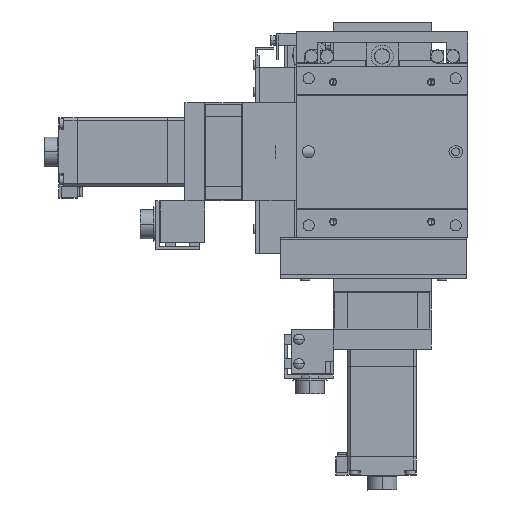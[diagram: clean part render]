
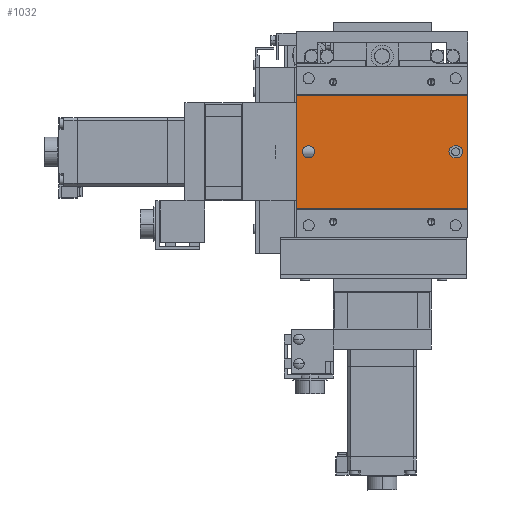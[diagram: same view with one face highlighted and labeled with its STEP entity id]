
A CAD part, front view. The second image highlights one B-rep face of the part: STEP entity #1032.
In plain terms, the highlighted planar face has unit normal (0, -1, 0).
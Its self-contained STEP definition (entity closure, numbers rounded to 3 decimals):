
#1032=ADVANCED_FACE('',(#3179,#3180,#3181),#3182,.F.);
#3179=FACE_BOUND('',#7584,.T.);
#3180=FACE_OUTER_BOUND('',#7585,.T.);
#3181=FACE_BOUND('',#7586,.T.);
#3182=PLANE('',#7587);
#7584=EDGE_LOOP('',(#12534,#12535,#12536,#12537));
#7585=EDGE_LOOP('',(#12538,#12539,#12540,#12541));
#7586=EDGE_LOOP('',(#12542,#12543,#12544));
#7587=AXIS2_PLACEMENT_3D('',#12545,#12546,#12547);
#12534=ORIENTED_EDGE('',*,*,#28552,.F.);
#12535=ORIENTED_EDGE('',*,*,#28553,.F.);
#12536=ORIENTED_EDGE('',*,*,#28554,.F.);
#12537=ORIENTED_EDGE('',*,*,#28555,.F.);
#12538=ORIENTED_EDGE('',*,*,#28541,.T.);
#12539=ORIENTED_EDGE('',*,*,#28556,.F.);
#12540=ORIENTED_EDGE('',*,*,#28557,.F.);
#12541=ORIENTED_EDGE('',*,*,#28558,.T.);
#12542=ORIENTED_EDGE('',*,*,#28438,.F.);
#12543=ORIENTED_EDGE('',*,*,#28437,.F.);
#12544=ORIENTED_EDGE('',*,*,#28559,.F.);
#12545=CARTESIAN_POINT('',(-35.,0.35,-23.15));
#12546=DIRECTION('',(0.,1.0,0.));
#12547=DIRECTION('',(-1.0,0.,0.));
#28437=EDGE_CURVE('',#33718,#33720,#33721,.F.);
#28438=EDGE_CURVE('',#33720,#33714,#33722,.F.);
#28541=EDGE_CURVE('',#33915,#33913,#33916,.T.);
#28552=EDGE_CURVE('',#33935,#33936,#33937,.F.);
#28553=EDGE_CURVE('',#33938,#33935,#33939,.T.);
#28554=EDGE_CURVE('',#33940,#33938,#33941,.F.);
#28555=EDGE_CURVE('',#33936,#33940,#33942,.T.);
#28556=EDGE_CURVE('',#33943,#33913,#33944,.T.);
#28557=EDGE_CURVE('',#33945,#33943,#33946,.T.);
#28558=EDGE_CURVE('',#33945,#33915,#33947,.T.);
#28559=EDGE_CURVE('',#33714,#33718,#33948,.F.);
#33714=VERTEX_POINT('',#42310);
#33718=VERTEX_POINT('',#42315);
#33720=VERTEX_POINT('',#42318);
#33721=CIRCLE('',#42319,2.5);
#33722=CIRCLE('',#42320,2.5);
#33913=VERTEX_POINT('',#42569);
#33915=VERTEX_POINT('',#42572);
#33916=LINE('',#42573,#42574);
#33935=VERTEX_POINT('',#42602);
#33936=VERTEX_POINT('',#42603);
#33937=CIRCLE('',#42604,2.5);
#33938=VERTEX_POINT('',#42605);
#33939=LINE('',#42606,#42607);
#33940=VERTEX_POINT('',#42608);
#33941=CIRCLE('',#42609,2.5);
#33942=LINE('',#42610,#42611);
#33943=VERTEX_POINT('',#42612);
#33944=LINE('',#42613,#42614);
#33945=VERTEX_POINT('',#42615);
#33946=LINE('',#42616,#42617);
#33947=LINE('',#42618,#42619);
#33948=CIRCLE('',#42620,2.5);
#42310=CARTESIAN_POINT('',(-27.5,0.35,0.));
#42315=CARTESIAN_POINT('',(-32.5,0.35,0.));
#42318=CARTESIAN_POINT('',(-30.,0.35,-2.5));
#42319=AXIS2_PLACEMENT_3D('',#54195,#54196,#54197);
#42320=AXIS2_PLACEMENT_3D('',#54198,#54199,#54200);
#42569=CARTESIAN_POINT('',(35.,0.35,23.15));
#42572=CARTESIAN_POINT('',(35.,0.35,-23.15));
#42573=CARTESIAN_POINT('',(35.,0.35,-23.15));
#42574=VECTOR('',#54389,1000.0);
#42602=CARTESIAN_POINT('',(30.25,0.35,-2.5));
#42603=CARTESIAN_POINT('',(30.25,0.35,2.5));
#42604=AXIS2_PLACEMENT_3D('',#54402,#54403,#54404);
#42605=CARTESIAN_POINT('',(29.75,0.35,-2.5));
#42606=CARTESIAN_POINT('',(-35.,0.35,-2.5));
#42607=VECTOR('',#54405,1000.0);
#42608=CARTESIAN_POINT('',(29.75,0.35,2.5));
#42609=AXIS2_PLACEMENT_3D('',#54406,#54407,#54408);
#42610=CARTESIAN_POINT('',(-35.,0.35,2.5));
#42611=VECTOR('',#54409,1000.0);
#42612=CARTESIAN_POINT('',(-35.,0.35,23.15));
#42613=CARTESIAN_POINT('',(-35.,0.35,23.15));
#42614=VECTOR('',#54410,1000.0);
#42615=CARTESIAN_POINT('',(-35.,0.35,-23.15));
#42616=CARTESIAN_POINT('',(-35.,0.35,-23.15));
#42617=VECTOR('',#54411,1000.0);
#42618=CARTESIAN_POINT('',(-35.,0.35,-23.15));
#42619=VECTOR('',#54412,1000.0);
#42620=AXIS2_PLACEMENT_3D('',#54413,#54414,#54415);
#54195=CARTESIAN_POINT('',(-30.0,0.35,0.));
#54196=DIRECTION('',(0.,1.0,0.));
#54197=DIRECTION('',(0.,0.,-1.0));
#54198=CARTESIAN_POINT('',(-30.0,0.35,0.));
#54199=DIRECTION('',(0.,1.0,0.));
#54200=DIRECTION('',(0.,0.,-1.0));
#54389=DIRECTION('',(0.,0.,1.0));
#54402=CARTESIAN_POINT('',(30.25,0.35,0.));
#54403=DIRECTION('',(0.,1.0,0.));
#54404=DIRECTION('',(0.,0.,-1.0));
#54405=DIRECTION('',(1.0,0.,0.));
#54406=CARTESIAN_POINT('',(29.75,0.35,0.));
#54407=DIRECTION('',(0.,1.0,0.));
#54408=DIRECTION('',(0.,0.,-1.0));
#54409=DIRECTION('',(-1.0,0.,0.));
#54410=DIRECTION('',(1.0,0.,0.));
#54411=DIRECTION('',(0.,0.,1.0));
#54412=DIRECTION('',(1.0,0.,0.));
#54413=CARTESIAN_POINT('',(-30.0,0.35,0.));
#54414=DIRECTION('',(0.,1.0,0.));
#54415=DIRECTION('',(0.,0.,-1.0));
